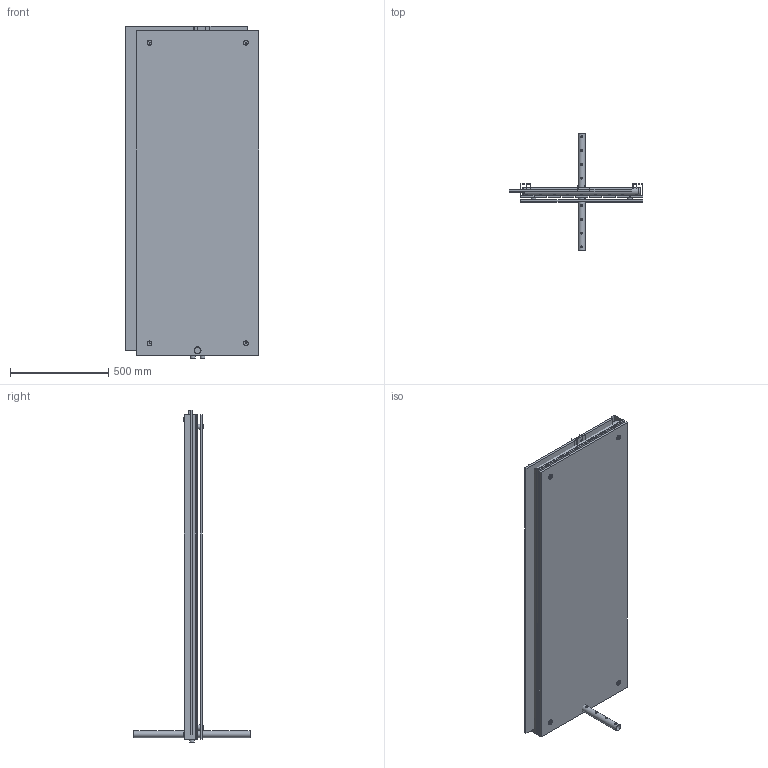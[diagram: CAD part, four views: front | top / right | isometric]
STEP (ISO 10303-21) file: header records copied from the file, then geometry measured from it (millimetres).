
FILE_DESCRIPTION( ( 'Unknown' ), '1' );
FILE_NAME( 'Y:/ProjektyAktualne/GRZEJNIKI I INNE/DESIGN PROGRAM/COSTA/COSTA 2.stp', 'Unknown', ( 'Unknown' ), ( 'Unknown' ), 'PSStep 10.1', 'Unknown', ' ' );
FILE_SCHEMA( ( 'AUTOMOTIVE_DESIGN { 1 0 10303 214 1 1 1 1 }' ) );
Length unit declared in the file: millimetre
Products named in the file (13): Assem1; nakrêtka; sworzeñ mocowania lustra; nakrêtka mocowania lustra; mufka; Zaslepka fi 35 z gwintem ; rura 60x10  1650; os³ona boczna; radiator tylny; uchwyt; CALLE kolektor 620; CALLE kolektor 620 D-50; szyba ozdobna COSTA 2
Bounding box: 677.68 x 595 x 1689.5 mm (x, y, z)
Volume: 25670331.8 mm3; surface area: 12609260.6 mm2
Topology: 52 solids, 52 shells, 878 faces, 2212 edges, 1518 vertices
Faces by surface type: plane 492, cylinder 234, cone 102, extrusion 36, torus 10, bspline 4
Full cylindrical faces by diameter (mm): 1 x30, 4.917 x6, 6 x6, 6.023 x36, 8 x26, 9 x3, 10 x8, 12 x6, 15 x4, 18.631 x5, 19 x3, 25 x20, 32 x4, 35 x9
Entity records: 16316 total; most frequent: CARTESIAN_POINT 8992, DIRECTION 986, ORIENTED_EDGE 918, EDGE_CURVE 459, EDGE_LOOP 438, AXIS2_PLACEMENT_3D 421, VERTEX_POINT 375, FACE_OUTER_BOUND 307
